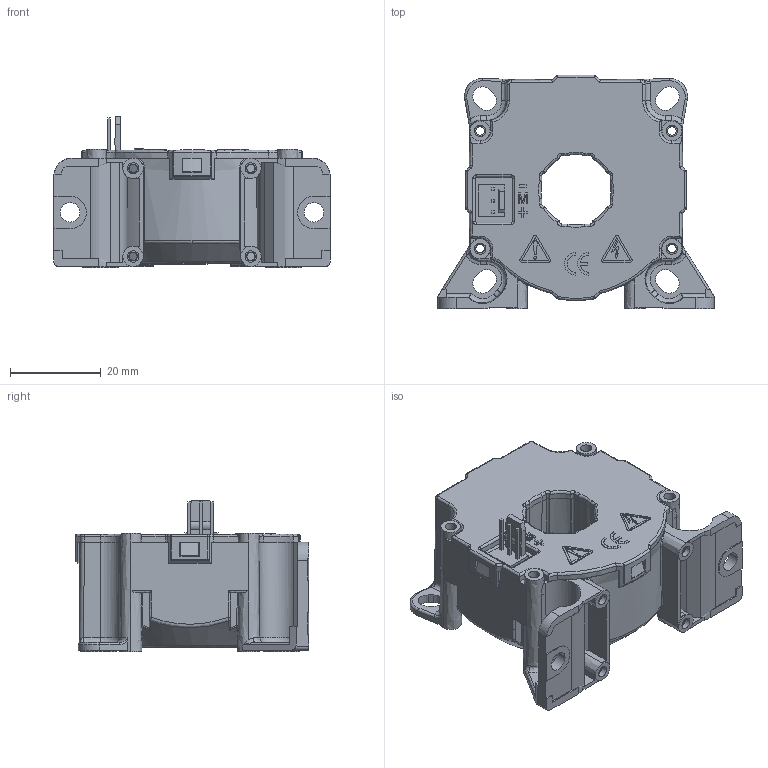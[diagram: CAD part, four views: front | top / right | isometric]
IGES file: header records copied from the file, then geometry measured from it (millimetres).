
Start section: Elysium IGES Interface
Global section: file name: C:\Documents and Settings\rla\Desktop\LF205-S Blackbox.igs; native system: SolidDesigner 16.00A  16-Aug-2008; preprocessor: CoCreate IGES_3D V2.2; author: Unknown; organization: Unknown; date: 20100602.105314; units: millimetre
Bounding box: 61 x 51.63 x 33.49 mm (x, y, z)
Volume: 43235.5 mm3; surface area: 17517.4 mm2
Topology: 3 solids, 3 shells, 1555 faces, 4116 edges, 2665 vertices
Faces by surface type: bspline 1555
